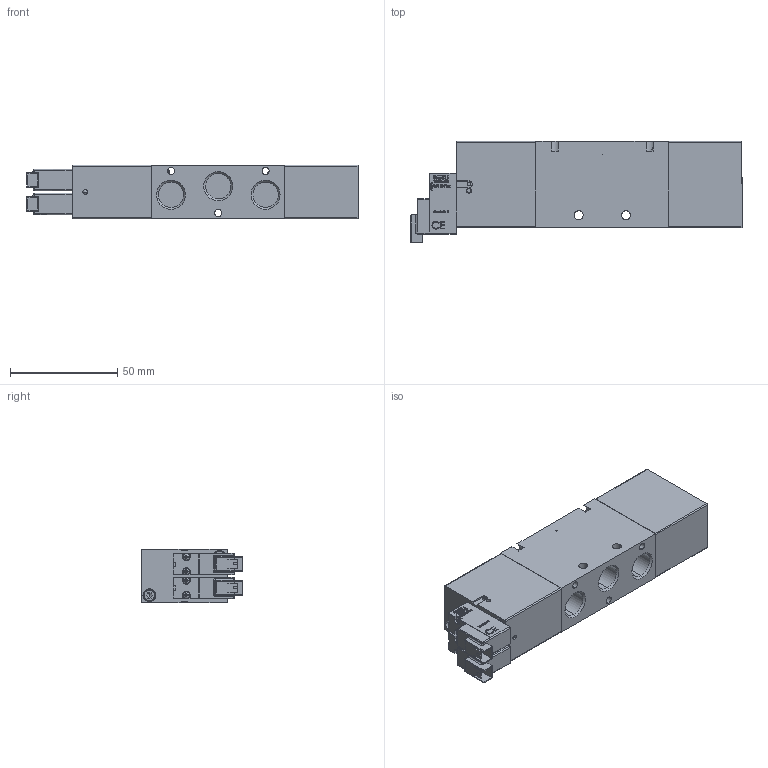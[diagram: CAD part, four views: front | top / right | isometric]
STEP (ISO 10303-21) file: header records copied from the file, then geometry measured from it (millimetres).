
FILE_DESCRIPTION (( 'STEP AP214' ), '1' );
FILE_NAME ('07_030_3.STEP', '2016-01-04T08:46:14', ( '' ), ( '' ), 'SwSTEP 2.0', 'SolidWorks 2016', '' );
FILE_SCHEMA (( 'AUTOMOTIVE_DESIGN' ));
Length unit declared in the file: millimetre
Products named in the file (1): 07_030_3
Bounding box: 154.45 x 47 x 25 mm (x, y, z)
Volume: 134246.8 mm3; surface area: 34405.9 mm2
Topology: 15 solids, 15 shells, 1370 faces, 3495 edges, 2237 vertices
Faces by surface type: plane 734, bspline 336, cylinder 164, cone 82, torus 28, sphere 26
Entity records: 62090 total; most frequent: CARTESIAN_POINT 27600, ORIENTED_EDGE 6876, DIRECTION 5300, EDGE_CURVE 3438, VERTEX_POINT 2222, LINE 2120, VECTOR 2120, AXIS2_PLACEMENT_3D 1590
